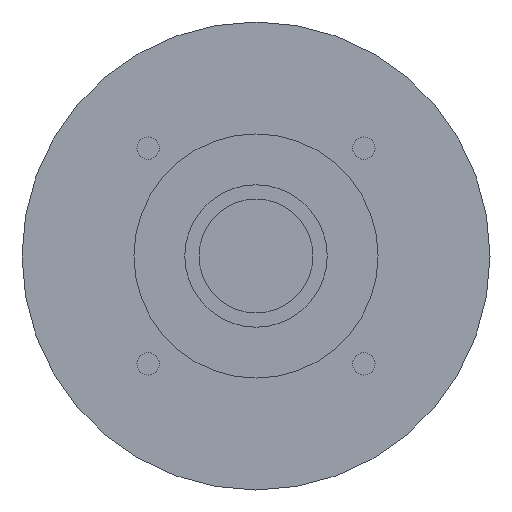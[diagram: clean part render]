
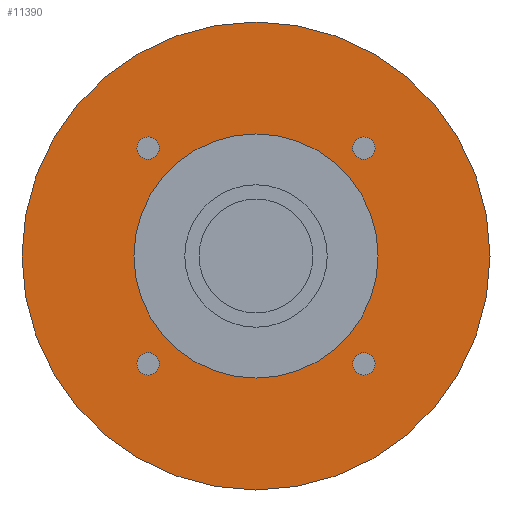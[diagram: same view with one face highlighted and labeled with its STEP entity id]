
A CAD part, left-side view. The second image highlights one B-rep face of the part: STEP entity #11390.
In plain terms, the highlighted planar face has unit normal (-1, 0, 0) as drawn and (0, 0, -1) by its records, which use the part's own axes.
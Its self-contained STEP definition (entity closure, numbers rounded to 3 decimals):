
#10310=CARTESIAN_POINT('',(-57.5,0.,-66.4));
#10320=VERTEX_POINT('',#10310);
#10400=CARTESIAN_POINT('',(57.5,0.,-66.4));
#10410=VERTEX_POINT('',#10400);
#10440=CARTESIAN_POINT('',(0.,0.,
-66.4));
#10450=DIRECTION('',(0.,0.,1.));
#10460=DIRECTION('',(1.,0.,0.));
#10470=AXIS2_PLACEMENT_3D('',#10440,#10450,#10460);
#10480=CIRCLE('',#10470,57.5);
#10490=EDGE_CURVE('',#10320,#10410,#10480,.T.);
#10540=CARTESIAN_POINT('',(43.75,0.,-66.4));
#10550=DIRECTION('',(0.,0.,-1.));
#10560=DIRECTION('',(1.,0.,0.));
#10570=AXIS2_PLACEMENT_3D('',#10540,#10550,#10560);
#10580=PLANE('',#10570);
#10590=CARTESIAN_POINT('',(0.,0.,
-66.4));
#10600=DIRECTION('',(0.,0.,1.));
#10610=DIRECTION('',(1.,0.,0.));
#10620=AXIS2_PLACEMENT_3D('',#10590,#10600,#10610);
#10630=CIRCLE('',#10620,30.);
#10640=CARTESIAN_POINT('',(30.,0.,-66.4));
#10650=VERTEX_POINT('',#10640);
#10660=CARTESIAN_POINT('',(-30.,0.,-66.4));
#10670=VERTEX_POINT('',#10660);
#10680=EDGE_CURVE('',#10650,#10670,#10630,.T.);
#10690=ORIENTED_EDGE('',*,*,#10680,.T.);
#10700=EDGE_CURVE('',#10670,#10650,#10630,.T.);
#10710=ORIENTED_EDGE('',*,*,#10700,.T.);
#10720=EDGE_LOOP('',(#10710,#10690));
#10730=FACE_BOUND('',#10720,.T.);
#10740=EDGE_CURVE('',#10410,#10320,#10480,.T.);
#10750=ORIENTED_EDGE('',*,*,#10740,.F.);
#10760=ORIENTED_EDGE('',*,*,#10490,.F.);
#10770=EDGE_LOOP('',(#10760,#10750));
#10780=FACE_OUTER_BOUND('',#10770,.T.);
#10790=CARTESIAN_POINT('',(26.517,-26.517,-66.4));
#10800=DIRECTION('',(0.,0.,1.));
#10810=DIRECTION('',(-1.,0.,0.));
#10820=AXIS2_PLACEMENT_3D('',#10790,#10800,#10810);
#10830=CIRCLE('',#10820,2.75);
#10840=CARTESIAN_POINT('',(23.767,-26.517,-66.4));
#10850=VERTEX_POINT('',#10840);
#10860=CARTESIAN_POINT('',(29.267,-26.517,-66.4));
#10870=VERTEX_POINT('',#10860);
#10880=EDGE_CURVE('',#10850,#10870,#10830,.T.);
#10890=ORIENTED_EDGE('',*,*,#10880,.T.);
#10900=EDGE_CURVE('',#10870,#10850,#10830,.T.);
#10910=ORIENTED_EDGE('',*,*,#10900,.T.);
#10920=EDGE_LOOP('',(#10910,#10890));
#10930=FACE_BOUND('',#10920,.T.);
#10940=CARTESIAN_POINT('',(-26.517,-26.517,-66.4));
#10950=DIRECTION('',(0.,0.,1.));
#10960=DIRECTION('',(-1.,0.,0.));
#10970=AXIS2_PLACEMENT_3D('',#10940,#10950,#10960);
#10980=CIRCLE('',#10970,2.75);
#10990=CARTESIAN_POINT('',(-29.267,-26.517,-66.4));
#11000=VERTEX_POINT('',#10990);
#11010=CARTESIAN_POINT('',(-23.767,-26.517,-66.4));
#11020=VERTEX_POINT('',#11010);
#11030=EDGE_CURVE('',#11000,#11020,#10980,.T.);
#11040=ORIENTED_EDGE('',*,*,#11030,.T.);
#11050=EDGE_CURVE('',#11020,#11000,#10980,.T.);
#11060=ORIENTED_EDGE('',*,*,#11050,.T.);
#11070=EDGE_LOOP('',(#11060,#11040));
#11080=FACE_BOUND('',#11070,.T.);
#11090=CARTESIAN_POINT('',(-26.517,26.517,-66.4));
#11100=DIRECTION('',(0.,0.,1.));
#11110=DIRECTION('',(-1.,0.,0.));
#11120=AXIS2_PLACEMENT_3D('',#11090,#11100,#11110);
#11130=CIRCLE('',#11120,2.75);
#11140=CARTESIAN_POINT('',(-29.267,26.517,-66.4));
#11150=VERTEX_POINT('',#11140);
#11160=CARTESIAN_POINT('',(-23.767,26.517,-66.4));
#11170=VERTEX_POINT('',#11160);
#11180=EDGE_CURVE('',#11150,#11170,#11130,.T.);
#11190=ORIENTED_EDGE('',*,*,#11180,.T.);
#11200=EDGE_CURVE('',#11170,#11150,#11130,.T.);
#11210=ORIENTED_EDGE('',*,*,#11200,.T.);
#11220=EDGE_LOOP('',(#11210,#11190));
#11230=FACE_BOUND('',#11220,.T.);
#11240=CARTESIAN_POINT('',(26.517,26.517,-66.4));
#11250=DIRECTION('',(0.,0.,1.));
#11260=DIRECTION('',(-1.,0.,0.));
#11270=AXIS2_PLACEMENT_3D('',#11240,#11250,#11260);
#11280=CIRCLE('',#11270,2.75);
#11290=CARTESIAN_POINT('',(23.767,26.517,-66.4));
#11300=VERTEX_POINT('',#11290);
#11310=CARTESIAN_POINT('',(29.267,26.517,-66.4));
#11320=VERTEX_POINT('',#11310);
#11330=EDGE_CURVE('',#11300,#11320,#11280,.T.);
#11340=ORIENTED_EDGE('',*,*,#11330,.T.);
#11350=EDGE_CURVE('',#11320,#11300,#11280,.T.);
#11360=ORIENTED_EDGE('',*,*,#11350,.T.);
#11370=EDGE_LOOP('',(#11360,#11340));
#11380=FACE_BOUND('',#11370,.T.);
#11390=ADVANCED_FACE('',(#10730,#10780,#10930,#11080,#11230,#11380),
#10580,.T.);
